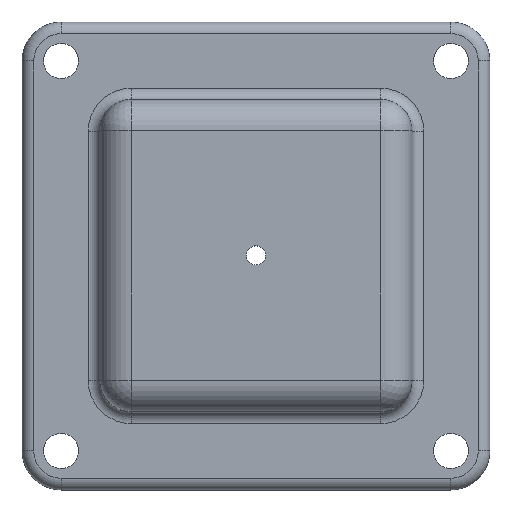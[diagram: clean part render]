
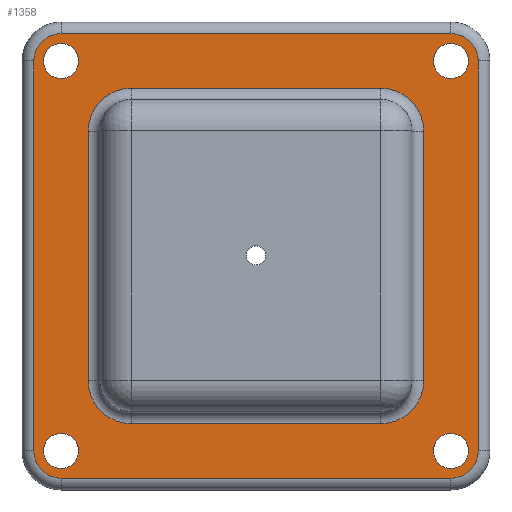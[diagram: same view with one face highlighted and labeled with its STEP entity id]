
A CAD part, top view. The second image highlights one B-rep face of the part: STEP entity #1358.
In plain terms, the highlighted planar face has unit normal (0, 0, 1).
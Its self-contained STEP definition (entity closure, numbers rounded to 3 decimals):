
#47=LINE('',#2209,#123);
#49=LINE('',#2221,#125);
#51=LINE('',#2233,#127);
#52=LINE('',#2241,#128);
#61=LINE('',#2266,#137);
#62=LINE('',#2270,#138);
#63=LINE('',#2274,#139);
#64=LINE('',#2277,#140);
#123=VECTOR('',#1706,100.);
#125=VECTOR('',#1720,100.);
#127=VECTOR('',#1734,100.);
#128=VECTOR('',#1745,100.);
#137=VECTOR('',#1770,64.);
#138=VECTOR('',#1773,64.);
#139=VECTOR('',#1776,64.);
#140=VECTOR('',#1779,64.);
#202=PLANE('',#1485);
#272=FACE_BOUND('',#434,.T.);
#273=FACE_BOUND('',#435,.T.);
#274=FACE_BOUND('',#436,.T.);
#275=FACE_BOUND('',#437,.T.);
#276=FACE_BOUND('',#438,.T.);
#329=FACE_OUTER_BOUND('',#433,.T.);
#433=EDGE_LOOP('',(#1027,#1028,#1029,#1030,#1031,#1032,#1033,#1034));
#434=EDGE_LOOP('',(#1035,#1036,#1037,#1038,#1039,#1040,#1041,#1042));
#435=EDGE_LOOP('',(#1043));
#436=EDGE_LOOP('',(#1044));
#437=EDGE_LOOP('',(#1045));
#438=EDGE_LOOP('',(#1046));
#560=CIRCLE('',#1457,7.);
#566=CIRCLE('',#1465,7.);
#570=CIRCLE('',#1471,7.);
#574=CIRCLE('',#1477,7.);
#577=CIRCLE('',#1486,11.);
#578=CIRCLE('',#1487,11.);
#579=CIRCLE('',#1488,11.);
#580=CIRCLE('',#1489,11.);
#581=CIRCLE('',#1490,4.5);
#582=CIRCLE('',#1491,4.5);
#583=CIRCLE('',#1492,4.5);
#584=CIRCLE('',#1493,4.5);
#680=VERTEX_POINT('',#2197);
#681=VERTEX_POINT('',#2199);
#683=VERTEX_POINT('',#2205);
#685=VERTEX_POINT('',#2211);
#687=VERTEX_POINT('',#2217);
#689=VERTEX_POINT('',#2223);
#691=VERTEX_POINT('',#2229);
#693=VERTEX_POINT('',#2235);
#700=VERTEX_POINT('',#2262);
#701=VERTEX_POINT('',#2263);
#702=VERTEX_POINT('',#2265);
#703=VERTEX_POINT('',#2267);
#704=VERTEX_POINT('',#2269);
#705=VERTEX_POINT('',#2271);
#706=VERTEX_POINT('',#2273);
#707=VERTEX_POINT('',#2275);
#708=VERTEX_POINT('',#2278);
#709=VERTEX_POINT('',#2280);
#710=VERTEX_POINT('',#2282);
#711=VERTEX_POINT('',#2284);
#796=EDGE_CURVE('',#680,#681,#560,.T.);
#801=EDGE_CURVE('',#681,#683,#47,.T.);
#804=EDGE_CURVE('',#683,#685,#566,.T.);
#807=EDGE_CURVE('',#685,#687,#49,.T.);
#810=EDGE_CURVE('',#687,#689,#570,.T.);
#813=EDGE_CURVE('',#689,#691,#51,.T.);
#816=EDGE_CURVE('',#691,#693,#574,.T.);
#817=EDGE_CURVE('',#693,#680,#52,.T.);
#828=EDGE_CURVE('',#700,#701,#577,.T.);
#829=EDGE_CURVE('',#702,#700,#61,.T.);
#830=EDGE_CURVE('',#703,#702,#578,.T.);
#831=EDGE_CURVE('',#704,#703,#62,.T.);
#832=EDGE_CURVE('',#705,#704,#579,.T.);
#833=EDGE_CURVE('',#706,#705,#63,.T.);
#834=EDGE_CURVE('',#707,#706,#580,.T.);
#835=EDGE_CURVE('',#701,#707,#64,.T.);
#836=EDGE_CURVE('',#708,#708,#581,.T.);
#837=EDGE_CURVE('',#709,#709,#582,.T.);
#838=EDGE_CURVE('',#710,#710,#583,.T.);
#839=EDGE_CURVE('',#711,#711,#584,.T.);
#1027=ORIENTED_EDGE('',*,*,#796,.F.);
#1028=ORIENTED_EDGE('',*,*,#817,.F.);
#1029=ORIENTED_EDGE('',*,*,#816,.F.);
#1030=ORIENTED_EDGE('',*,*,#813,.F.);
#1031=ORIENTED_EDGE('',*,*,#810,.F.);
#1032=ORIENTED_EDGE('',*,*,#807,.F.);
#1033=ORIENTED_EDGE('',*,*,#804,.F.);
#1034=ORIENTED_EDGE('',*,*,#801,.F.);
#1035=ORIENTED_EDGE('',*,*,#828,.F.);
#1036=ORIENTED_EDGE('',*,*,#829,.F.);
#1037=ORIENTED_EDGE('',*,*,#830,.F.);
#1038=ORIENTED_EDGE('',*,*,#831,.F.);
#1039=ORIENTED_EDGE('',*,*,#832,.F.);
#1040=ORIENTED_EDGE('',*,*,#833,.F.);
#1041=ORIENTED_EDGE('',*,*,#834,.F.);
#1042=ORIENTED_EDGE('',*,*,#835,.F.);
#1043=ORIENTED_EDGE('',*,*,#836,.T.);
#1044=ORIENTED_EDGE('',*,*,#837,.T.);
#1045=ORIENTED_EDGE('',*,*,#838,.T.);
#1046=ORIENTED_EDGE('',*,*,#839,.T.);
#1358=ADVANCED_FACE('',(#329,#272,#273,#274,#275,#276),#202,.T.);
#1457=AXIS2_PLACEMENT_3D('',#2200,#1695,#1696);
#1465=AXIS2_PLACEMENT_3D('',#2215,#1713,#1714);
#1471=AXIS2_PLACEMENT_3D('',#2227,#1727,#1728);
#1477=AXIS2_PLACEMENT_3D('',#2239,#1741,#1742);
#1485=AXIS2_PLACEMENT_3D('',#2261,#1766,#1767);
#1486=AXIS2_PLACEMENT_3D('',#2264,#1768,#1769);
#1487=AXIS2_PLACEMENT_3D('',#2268,#1771,#1772);
#1488=AXIS2_PLACEMENT_3D('',#2272,#1774,#1775);
#1489=AXIS2_PLACEMENT_3D('',#2276,#1777,#1778);
#1490=AXIS2_PLACEMENT_3D('',#2279,#1780,#1781);
#1491=AXIS2_PLACEMENT_3D('',#2281,#1782,#1783);
#1492=AXIS2_PLACEMENT_3D('',#2283,#1784,#1785);
#1493=AXIS2_PLACEMENT_3D('',#2285,#1786,#1787);
#1695=DIRECTION('center_axis',(0.,0.,-1.));
#1696=DIRECTION('ref_axis',(0.707,-0.707,0.));
#1706=DIRECTION('',(-1.,0.,0.));
#1713=DIRECTION('center_axis',(0.,0.,-1.));
#1714=DIRECTION('ref_axis',(-0.707,-0.707,0.));
#1720=DIRECTION('',(0.,1.,0.));
#1727=DIRECTION('center_axis',(0.,0.,-1.));
#1728=DIRECTION('ref_axis',(-0.707,0.707,0.));
#1734=DIRECTION('',(1.,0.,0.));
#1741=DIRECTION('center_axis',(0.,0.,-1.));
#1742=DIRECTION('ref_axis',(0.707,0.707,0.));
#1745=DIRECTION('',(0.,-1.,0.));
#1766=DIRECTION('center_axis',(0.,0.,1.));
#1767=DIRECTION('ref_axis',(1.,0.,0.));
#1768=DIRECTION('center_axis',(0.,0.,1.));
#1769=DIRECTION('ref_axis',(-0.707,-0.707,0.));
#1770=DIRECTION('',(0.,-1.,0.));
#1771=DIRECTION('center_axis',(0.,0.,1.));
#1772=DIRECTION('ref_axis',(-0.707,0.707,0.));
#1773=DIRECTION('',(-1.,0.,0.));
#1774=DIRECTION('center_axis',(0.,0.,1.));
#1775=DIRECTION('ref_axis',(0.707,0.707,0.));
#1776=DIRECTION('',(0.,1.,0.));
#1777=DIRECTION('center_axis',(0.,0.,1.));
#1778=DIRECTION('ref_axis',(0.707,-0.707,0.));
#1779=DIRECTION('',(1.,0.,0.));
#1780=DIRECTION('center_axis',(0.,0.,-1.));
#1781=DIRECTION('ref_axis',(1.,0.,0.));
#1782=DIRECTION('center_axis',(0.,0.,-1.));
#1783=DIRECTION('ref_axis',(1.,0.,0.));
#1784=DIRECTION('center_axis',(0.,0.,-1.));
#1785=DIRECTION('ref_axis',(1.,0.,0.));
#1786=DIRECTION('center_axis',(0.,0.,-1.));
#1787=DIRECTION('ref_axis',(1.,0.,0.));
#2197=CARTESIAN_POINT('',(57.,-50.,10.));
#2199=CARTESIAN_POINT('',(50.,-57.,10.));
#2200=CARTESIAN_POINT('Origin',(50.,-50.,10.));
#2205=CARTESIAN_POINT('',(-50.,-57.,10.));
#2209=CARTESIAN_POINT('',(-30.,-57.,10.));
#2211=CARTESIAN_POINT('',(-57.,-50.,10.));
#2215=CARTESIAN_POINT('Origin',(-50.,-50.,10.));
#2217=CARTESIAN_POINT('',(-57.,50.,10.));
#2221=CARTESIAN_POINT('',(-57.,30.,10.));
#2223=CARTESIAN_POINT('',(-50.,57.,10.));
#2227=CARTESIAN_POINT('Origin',(-50.,50.,10.));
#2229=CARTESIAN_POINT('',(50.,57.,10.));
#2233=CARTESIAN_POINT('',(30.,57.,10.));
#2235=CARTESIAN_POINT('',(57.,50.,10.));
#2239=CARTESIAN_POINT('Origin',(50.,50.,10.));
#2241=CARTESIAN_POINT('',(57.,-30.,10.));
#2261=CARTESIAN_POINT('Origin',(0.,0.,
10.));
#2262=CARTESIAN_POINT('',(-43.,-32.,10.));
#2263=CARTESIAN_POINT('',(-32.,-43.,10.));
#2264=CARTESIAN_POINT('Origin',(-32.,-32.,10.));
#2265=CARTESIAN_POINT('',(-43.,32.,10.));
#2266=CARTESIAN_POINT('',(-43.,20.,10.));
#2267=CARTESIAN_POINT('',(-32.,43.,10.));
#2268=CARTESIAN_POINT('Origin',(-32.,32.,10.));
#2269=CARTESIAN_POINT('',(32.,43.,10.));
#2270=CARTESIAN_POINT('',(20.,43.,10.));
#2271=CARTESIAN_POINT('',(43.,32.,10.));
#2272=CARTESIAN_POINT('Origin',(32.,32.,10.));
#2273=CARTESIAN_POINT('',(43.,-32.,10.));
#2274=CARTESIAN_POINT('',(43.,-20.,10.));
#2275=CARTESIAN_POINT('',(32.,-43.,10.));
#2276=CARTESIAN_POINT('Origin',(32.,-32.,10.));
#2277=CARTESIAN_POINT('',(-20.,-43.,10.));
#2278=CARTESIAN_POINT('',(54.5,-50.,10.));
#2279=CARTESIAN_POINT('Origin',(50.,-50.,10.));
#2280=CARTESIAN_POINT('',(-45.5,50.,10.));
#2281=CARTESIAN_POINT('Origin',(-50.,50.,10.));
#2282=CARTESIAN_POINT('',(-45.5,-50.,10.));
#2283=CARTESIAN_POINT('Origin',(-50.,-50.,10.));
#2284=CARTESIAN_POINT('',(54.5,50.,10.));
#2285=CARTESIAN_POINT('Origin',(50.,50.,10.));
